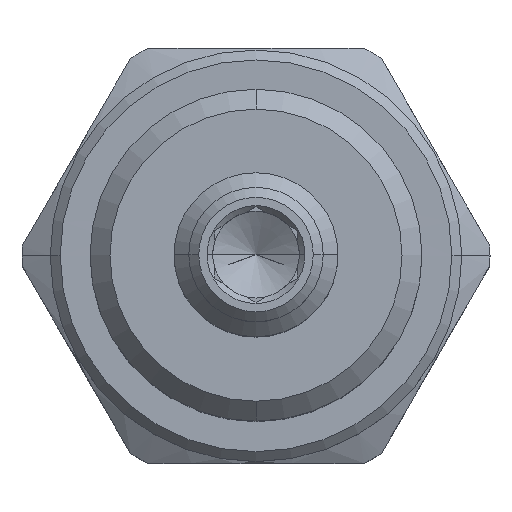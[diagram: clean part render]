
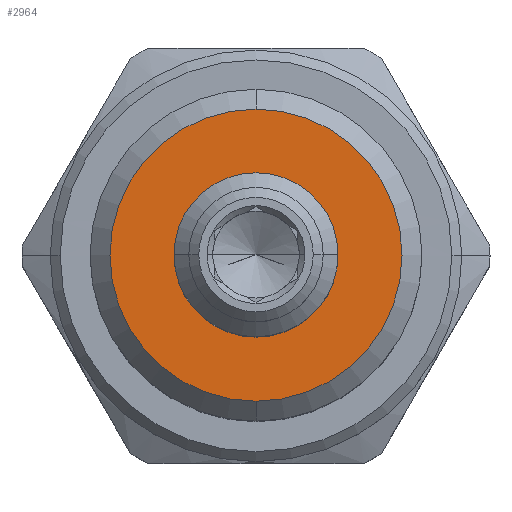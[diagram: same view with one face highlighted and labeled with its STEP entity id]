
A CAD part, top view. The second image highlights one B-rep face of the part: STEP entity #2964.
In plain terms, the highlighted planar face has unit normal (0, 0, 1).
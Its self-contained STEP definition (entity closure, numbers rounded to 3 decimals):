
#947=CARTESIAN_POINT('',(0.,0.,51.649));
#948=DIRECTION('',(0.,0.,-1.));
#949=DIRECTION('',(0.,-1.,0.));
#950=AXIS2_PLACEMENT_3D('',#947,#948,#949);
#952=CARTESIAN_POINT('',(0.,0.,51.649));
#953=DIRECTION('',(0.,0.,-1.));
#954=DIRECTION('',(0.,1.,0.));
#955=AXIS2_PLACEMENT_3D('',#952,#953,#954);
#957=CARTESIAN_POINT('',(0.,0.,51.649));
#958=DIRECTION('',(0.,0.,1.));
#959=DIRECTION('',(1.,0.,0.));
#960=AXIS2_PLACEMENT_3D('',#957,#958,#959);
#962=CARTESIAN_POINT('',(0.,0.,51.649));
#963=DIRECTION('',(0.,0.,1.));
#964=DIRECTION('',(-1.,0.,0.));
#965=AXIS2_PLACEMENT_3D('',#962,#963,#964);
#1605=CARTESIAN_POINT('',(0.,11.176,51.649));
#1606=VERTEX_POINT('',#1605);
#1607=CARTESIAN_POINT('',(0.,-11.176,51.649));
#1608=VERTEX_POINT('',#1607);
#1609=CARTESIAN_POINT('',(6.274,0.,51.649));
#1610=CARTESIAN_POINT('',(-6.274,0.,51.649));
#1611=VERTEX_POINT('',#1609);
#1612=VERTEX_POINT('',#1610);
#2949=CARTESIAN_POINT('',(0.,0.,51.649));
#2950=DIRECTION('',(0.,0.,-1.));
#2951=DIRECTION('',(0.,-1.,0.));
#2952=AXIS2_PLACEMENT_3D('',#2949,#2950,#2951);
#2953=PLANE('',#2952);
#2954=ORIENTED_EDGE('',*,*,#2928,.T.);
#2955=ORIENTED_EDGE('',*,*,#2944,.T.);
#2956=EDGE_LOOP('',(#2954,#2955));
#2957=FACE_OUTER_BOUND('',#2956,.F.);
#2959=ORIENTED_EDGE('',*,*,#2958,.T.);
#2961=ORIENTED_EDGE('',*,*,#2960,.T.);
#2962=EDGE_LOOP('',(#2959,#2961));
#2963=FACE_BOUND('',#2962,.F.);
#2964=ADVANCED_FACE('',(#2957,#2963),#2953,.F.);
#951=CIRCLE('',#950,11.176);
#956=CIRCLE('',#955,11.176);
#961=CIRCLE('',#960,6.274);
#966=CIRCLE('',#965,6.274);
#2928=EDGE_CURVE('',#1608,#1606,#951,.T.);
#2944=EDGE_CURVE('',#1606,#1608,#956,.T.);
#2958=EDGE_CURVE('',#1611,#1612,#961,.T.);
#2960=EDGE_CURVE('',#1612,#1611,#966,.T.);
